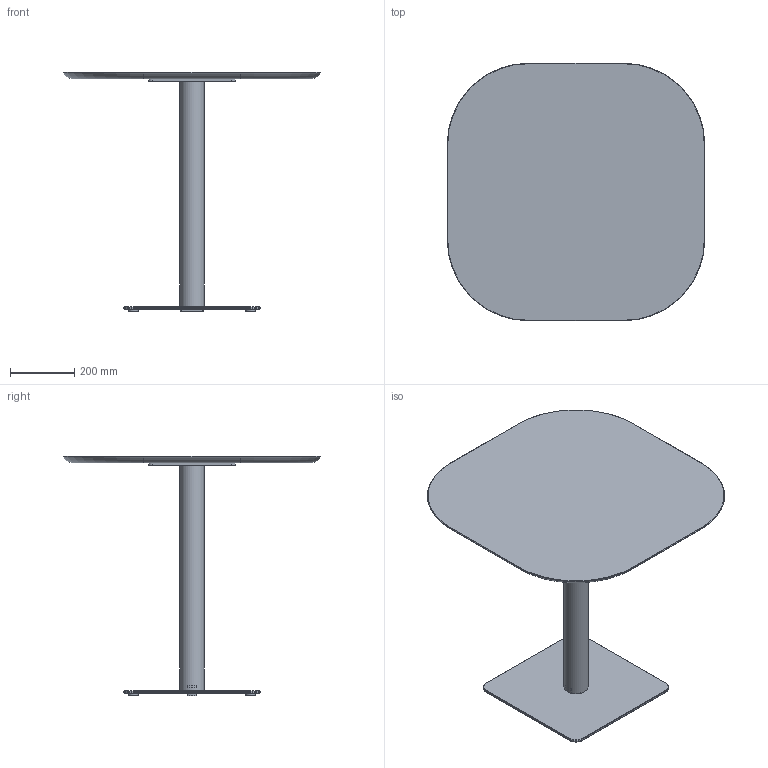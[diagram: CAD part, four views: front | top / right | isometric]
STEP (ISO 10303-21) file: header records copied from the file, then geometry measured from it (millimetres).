
FILE_DESCRIPTION( ('This file contains a STEP AP42 implementation' ,'as created by ZW3D STEP Interface translator.') ,'2;1' );
FILE_NAME( 'Henri - B_Carré - F2 - M3 - 800 x 800 x 750.stp' ,'24 912.165354', (''), ('ZWCAD Software Co.'), 'Version 1.0', 'ZW3D to STEP translator', '' );
FILE_SCHEMA(('AUTOMOTIVE_DESIGN { 1 0 10303 214 1 1 1 1 }'));
Length unit declared in the file: millimetre
Products named in the file (14): 0; PIED BISTROT PARAMETRIQUE_; COLONNE ACIER Ø76 V.02_; TUB-D076-02_; PLA-R76B-01_; CROIX ACIER 370 V.02_; CRX-X370-02_; SOCLE ACIER L 425x425 V.02_; SCL-R425-02_; PLA-R30A-01_; PLA-R30A-01; WUERTH 0276063020 Euro-screw 6.3x2 Verzinkt_; PLATEAU BISTROT PARAMETRIQUE_; insert_m6_13_
Assembly tree (22 placements, depth 3):
  0
  PIED BISTROT PARAMETRIQUE_
    COLONNE ACIER Ø76 V.02_
      TUB-D076-02_
      PLA-R76B-01_  x2
    CROIX ACIER 370 V.02_
      CRX-X370-02_
    SOCLE ACIER L 425x425 V.02_
      SCL-R425-02_
      PLA-R30A-01_
      PLA-R30A-01  x3
    WUERTH 0276063020 Euro-screw 6.3x2 Verzinkt_
    PLATEAU BISTROT PARAMETRIQUE_
      insert_m6_13_  x8
Bounding box: 800 x 800 x 744 mm (x, y, z)
Volume: 13680134.9 mm3; surface area: 2087587.6 mm2
Topology: 19 solids, 19 shells, 537 faces, 1310 edges, 822 vertices
Faces by surface type: plane 258, bspline 121, cylinder 102, cone 51, torus 5
Full cylindrical faces by diameter (mm): 4.88 x1, 6 x8, 6.3 x1, 8 x45, 12 x2, 14 x2, 30 x4, 72 x1, 76 x1
Entity records: 12318 total; most frequent: CARTESIAN_POINT 3396, ORIENTED_EDGE 1624, DIRECTION 1527, EDGE_CURVE 812, VERTEX_POINT 518, AXIS2_PLACEMENT_3D 511, VECTOR 505, LINE 505
